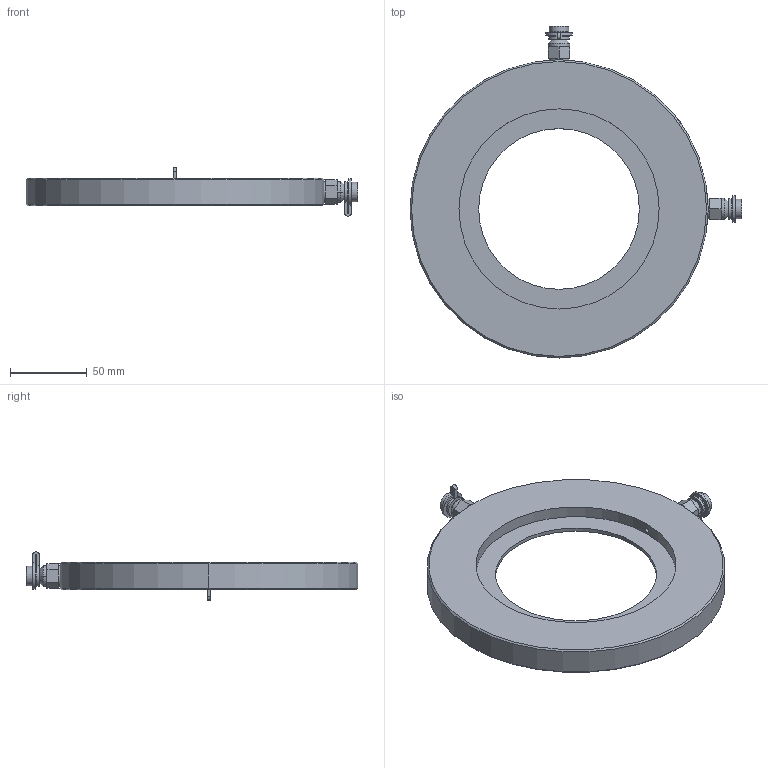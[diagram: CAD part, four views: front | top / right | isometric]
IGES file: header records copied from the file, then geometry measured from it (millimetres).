
Global section: file name: No Iges File Name specified; native system: AutoDesk Inventor R12.0; preprocessor: AutoDesk Inventor Iges Exporter R12.0; date: 20101223.105552; units: millimetre
Bounding box: 216.1 x 216.1 x 31.45 mm (x, y, z)
Volume: 309683 mm3; surface area: 62945.6 mm2
Topology: 1 solids, 1 shells, 125 faces, 290 edges, 186 vertices
Faces by surface type: plane 48, cylinder 29, bspline 18, cone 16, revolution 14
